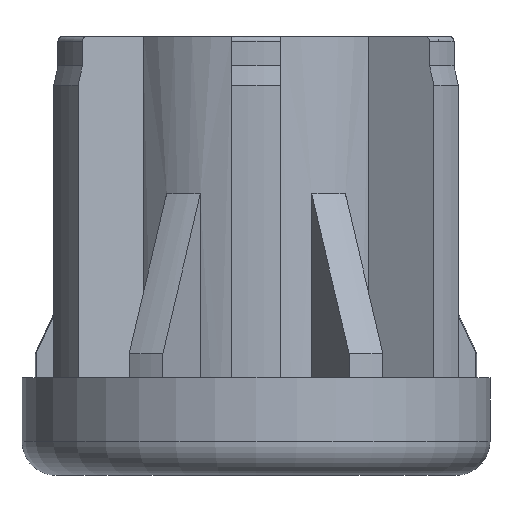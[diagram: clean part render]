
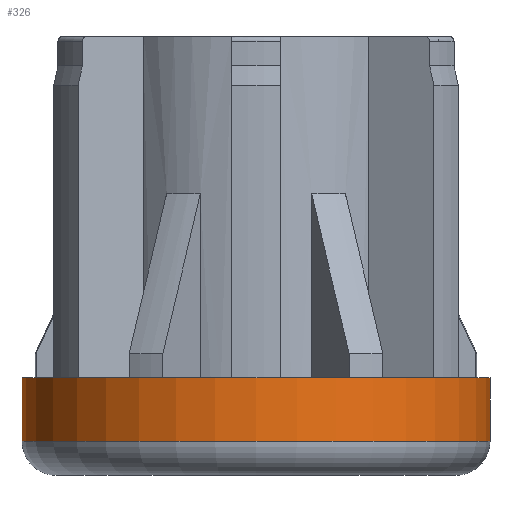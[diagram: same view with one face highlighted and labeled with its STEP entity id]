
A CAD part, front view. The second image highlights one B-rep face of the part: STEP entity #326.
In plain terms, the highlighted cylindrical face has radius 24 mm (diameter 48 mm), a partial arc.
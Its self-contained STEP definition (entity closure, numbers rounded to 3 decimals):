
#123 = CARTESIAN_POINT ( 'NONE',  ( 24., 0., -6.5 ) ) ;
#316 = ORIENTED_EDGE ( 'NONE', *, *, #3236, .F. ) ;
#326 = ADVANCED_FACE ( 'NONE', ( #2657 ), #3091, .T. ) ;
#569 = VECTOR ( 'NONE', #2039, 1000. ) ;
#573 = LINE ( 'NONE', #2028, #569 ) ;
#576 = AXIS2_PLACEMENT_3D ( 'NONE', #582, #1342, #594 ) ;
#582 = CARTESIAN_POINT ( 'NONE',  ( 0., 0., -6.5 ) ) ;
#593 = EDGE_CURVE ( 'NONE', #1671, #1656, #573, .T. ) ;
#594 = DIRECTION ( 'NONE',  ( 1., 0., 0. ) ) ;
#636 = CIRCLE ( 'NONE', #1085, 24. ) ;
#771 = ORIENTED_EDGE ( 'NONE', *, *, #593, .F. ) ;
#785 = VECTOR ( 'NONE', #1355, 1000. ) ;
#791 = DIRECTION ( 'NONE',  ( 0., 0., 1. ) ) ;
#815 = VERTEX_POINT ( 'NONE', #2916 ) ;
#945 = ORIENTED_EDGE ( 'NONE', *, *, #2256, .T. ) ;
#1085 = AXIS2_PLACEMENT_3D ( 'NONE', #2168, #1660, #2374 ) ;
#1337 = ORIENTED_EDGE ( 'NONE', *, *, #1420, .T. ) ;
#1342 = DIRECTION ( 'NONE',  ( 0., 0., 1. ) ) ;
#1355 = DIRECTION ( 'NONE',  ( 0., 0., 1. ) ) ;
#1420 = EDGE_CURVE ( 'NONE', #1671, #2739, #2119, .T. ) ;
#1599 = CARTESIAN_POINT ( 'NONE',  ( 24., 0., -10. ) ) ;
#1656 = VERTEX_POINT ( 'NONE', #2507 ) ;
#1660 = DIRECTION ( 'NONE',  ( 0., 0., 1. ) ) ;
#1671 = VERTEX_POINT ( 'NONE', #2429 ) ;
#1873 = LINE ( 'NONE', #1599, #785 ) ;
#2028 = CARTESIAN_POINT ( 'NONE',  ( -24., 0., -10. ) ) ;
#2039 = DIRECTION ( 'NONE',  ( 0., 0., 1. ) ) ;
#2119 = CIRCLE ( 'NONE', #576, 24. ) ;
#2168 = CARTESIAN_POINT ( 'NONE',  ( 0., 0., 0. ) ) ;
#2256 = EDGE_CURVE ( 'NONE', #2739, #815, #1873, .T. ) ;
#2374 = DIRECTION ( 'NONE',  ( 1., 0., 0. ) ) ;
#2429 = CARTESIAN_POINT ( 'NONE',  ( -24., 0., -6.5 ) ) ;
#2507 = CARTESIAN_POINT ( 'NONE',  ( -24., 0., 0. ) ) ;
#2562 = DIRECTION ( 'NONE',  ( 1., 0., 0. ) ) ;
#2657 = FACE_OUTER_BOUND ( 'NONE', #2669, .T. ) ;
#2669 = EDGE_LOOP ( 'NONE', ( #771, #1337, #945, #316 ) ) ;
#2739 = VERTEX_POINT ( 'NONE', #123 ) ;
#2916 = CARTESIAN_POINT ( 'NONE',  ( 24., 0., 0. ) ) ;
#3059 = CARTESIAN_POINT ( 'NONE',  ( 0., 0., -10. ) ) ;
#3091 = CYLINDRICAL_SURFACE ( 'NONE', #3164, 24. ) ;
#3164 = AXIS2_PLACEMENT_3D ( 'NONE', #3059, #791, #2562 ) ;
#3236 = EDGE_CURVE ( 'NONE', #1656, #815, #636, .T. ) ;
